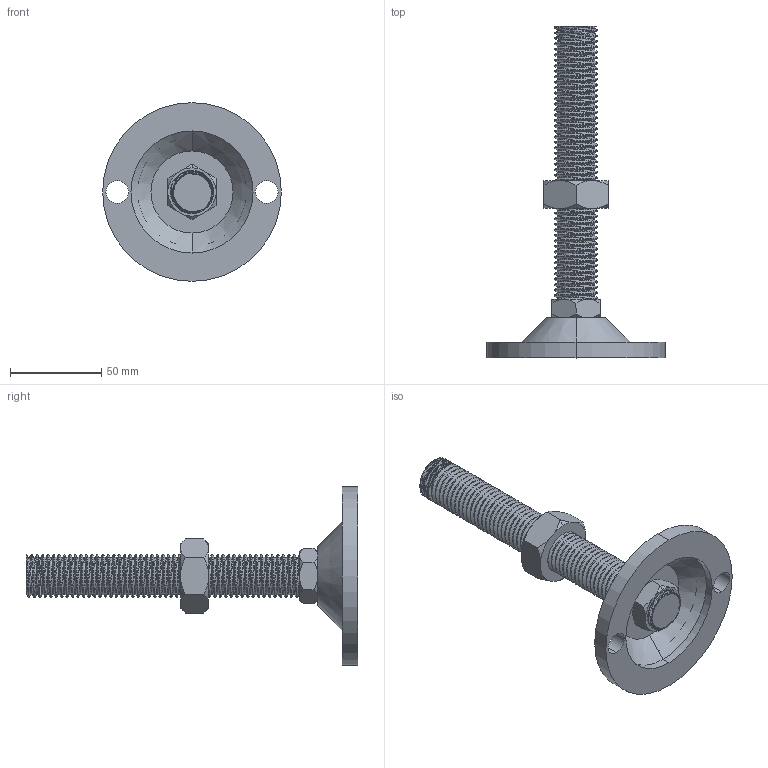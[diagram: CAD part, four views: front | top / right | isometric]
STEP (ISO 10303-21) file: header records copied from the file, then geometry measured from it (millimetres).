
FILE_DESCRIPTION (( 'STEP AP203' ), '1' );
FILE_NAME ('7656.STEP', '2025-12-18T05:17:18', ( '' ), ( '' ), 'SwSTEP 2.0', 'SolidWorks 2022', '' );
FILE_SCHEMA (( 'CONFIG_CONTROL_DESIGN' ));
Length unit declared in the file: millimetre
Products named in the file (1): 7656
Bounding box: 98 x 182 x 98 mm (x, y, z)
Volume: 122402.4 mm3; surface area: 49132.7 mm2
Topology: 5 solids, 5 shells, 216 faces, 605 edges, 401 vertices
Faces by surface type: cylinder 137, cone 46, plane 30, bspline 3
Entity records: 14438 total; most frequent: CARTESIAN_POINT 9592, ORIENTED_EDGE 1210, DIRECTION 794, EDGE_CURVE 605, VERTEX_POINT 401, AXIS2_PLACEMENT_3D 297, EDGE_LOOP 230, FACE_OUTER_BOUND 216
